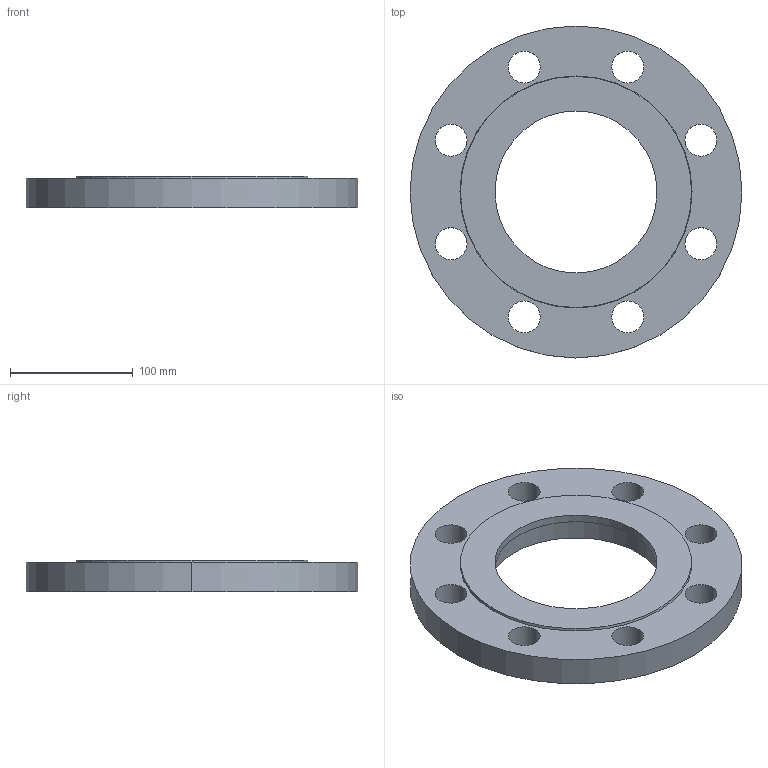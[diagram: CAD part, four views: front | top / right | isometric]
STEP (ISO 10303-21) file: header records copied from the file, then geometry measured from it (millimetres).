
FILE_DESCRIPTION (( 'STEP AP214' ), '1' );
FILE_NAME ('PN40 DN125 Type 05 - Socket (Type B) - Not in Standard.STEP', '2019-01-02T19:34:42', ( '' ), ( '' ), 'SwSTEP 2.0', 'SolidWorks 2019', '' );
FILE_SCHEMA (( 'AUTOMOTIVE_DESIGN' ));
Length unit declared in the file: millimetre
Products named in the file (1): PN40 DN125 Type 05 - Socket (Type B) - Not in Standard
Bounding box: 270 x 270 x 26 mm (x, y, z)
Volume: 932727.8 mm3; surface area: 127162.1 mm2
Topology: 1 solids, 1 shells, 28 faces, 72 edges, 48 vertices
Faces by surface type: cylinder 22, plane 4, cone 2
Entity records: 954 total; most frequent: DIRECTION 178, CARTESIAN_POINT 149, ORIENTED_EDGE 144, AXIS2_PLACEMENT_3D 77, EDGE_CURVE 72, CIRCLE 48, EDGE_LOOP 48, VERTEX_POINT 48
